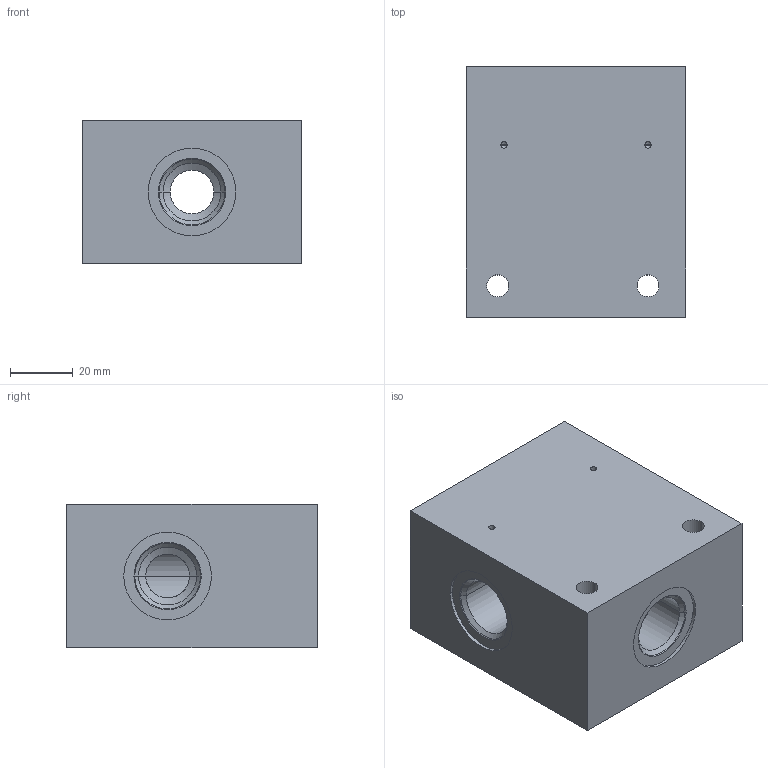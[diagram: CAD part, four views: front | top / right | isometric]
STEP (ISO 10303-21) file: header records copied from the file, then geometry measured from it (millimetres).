
FILE_DESCRIPTION((''),'2;1');
FILE_NAME('1000058526','2023-10-11T',('l.soukupova'),(''),'PRO/ENGINEER BY PARAMETRIC TECHNOLOGY CORPORATION, 2015440','PRO/ENGINEER BY PARAMETRIC TECHNOLOGY CORPORATION, 2015440','');
FILE_SCHEMA(('AUTOMOTIVE_DESIGN { 1 0 10303 214 1 1 1 1 }'));
Length unit declared in the file: millimetre
Products named in the file (1): 1000058526
Bounding box: 70 x 80 x 46 mm (x, y, z)
Volume: 222585 mm3; surface area: 36186.7 mm2
Topology: 1 solids, 5 shells, 82 faces, 312 edges, 271 vertices
Faces by surface type: cylinder 42, cone 26, plane 14
Entity records: 4402 total; most frequent: CARTESIAN_POINT 705, DIRECTION 588, ORIENTED_EDGE 352, PRESENTATION_STYLE_ASSIGNMENT 339, STYLED_ITEM 339, CURVE_STYLE 334, VECTOR 202, LINE 202
